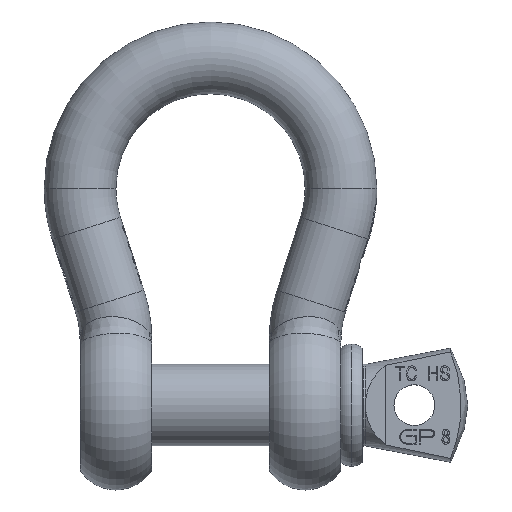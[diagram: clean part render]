
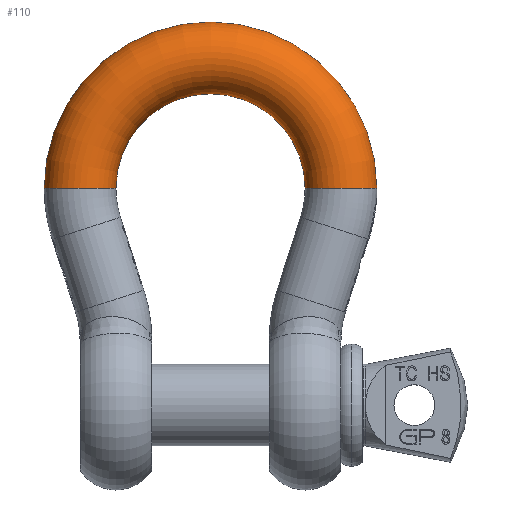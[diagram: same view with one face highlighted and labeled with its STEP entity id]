
A CAD part, top view. The second image highlights one B-rep face of the part: STEP entity #110.
In plain terms, the highlighted toroidal (fillet/blend) face has major radius 40 mm and minor radius 11 mm.
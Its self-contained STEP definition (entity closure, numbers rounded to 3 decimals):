
#110=ADVANCED_FACE('',(#555),#556,.T.);
#555=FACE_OUTER_BOUND('',#1414,.T.);
#556=TOROIDAL_SURFACE('',#1415,40.0,11.0);
#1414=EDGE_LOOP('',(#6988,#6989,#6990,#6991,#6992,#6993));
#1415=AXIS2_PLACEMENT_3D('',#6994,#6995,#6996);
#6988=ORIENTED_EDGE('',*,*,#9798,.T.);
#6989=ORIENTED_EDGE('',*,*,#9987,.T.);
#6990=ORIENTED_EDGE('',*,*,#9988,.T.);
#6991=ORIENTED_EDGE('',*,*,#9799,.T.);
#6992=ORIENTED_EDGE('',*,*,#9989,.T.);
#6993=ORIENTED_EDGE('',*,*,#9990,.T.);
#6994=CARTESIAN_POINT('',(0.0,66.5,0.0));
#6995=DIRECTION('',(0.0,0.0,1.0));
#6996=DIRECTION('',(1.0,0.0,0.0));
#9798=EDGE_CURVE('',#10945,#10910,#10958,.T.);
#9799=EDGE_CURVE('',#10913,#10943,#10959,.T.);
#9987=EDGE_CURVE('',#10910,#11318,#11319,.T.);
#9988=EDGE_CURVE('',#11318,#10913,#11320,.T.);
#9989=EDGE_CURVE('',#10943,#11321,#11322,.T.);
#9990=EDGE_CURVE('',#11321,#10945,#11323,.T.);
#10910=VERTEX_POINT('',#12866);
#10913=VERTEX_POINT('',#12869);
#10943=VERTEX_POINT('',#12919);
#10945=VERTEX_POINT('',#12921);
#10958=CIRCLE('',#12946,51.0);
#10959=CIRCLE('',#12947,29.0);
#11318=VERTEX_POINT('',#14430);
#11319=CIRCLE('',#14431,11.0);
#11320=CIRCLE('',#14432,11.0);
#11321=VERTEX_POINT('',#14433);
#11322=CIRCLE('',#14434,11.0);
#11323=CIRCLE('',#14435,11.0);
#12866=CARTESIAN_POINT('',(-51.0,66.5,0.));
#12869=CARTESIAN_POINT('',(-29.0,66.5,0.));
#12919=CARTESIAN_POINT('',(29.0,66.5,0.));
#12921=CARTESIAN_POINT('',(51.0,66.5,0.));
#12946=AXIS2_PLACEMENT_3D('',#19970,#19971,#19972);
#12947=AXIS2_PLACEMENT_3D('',#19973,#19974,#19975);
#14430=CARTESIAN_POINT('',(-40.0,66.5,11.0));
#14431=AXIS2_PLACEMENT_3D('',#20187,#20188,#20189);
#14432=AXIS2_PLACEMENT_3D('',#20190,#20191,#20192);
#14433=CARTESIAN_POINT('',(40.0,66.5,11.0));
#14434=AXIS2_PLACEMENT_3D('',#20193,#20194,#20195);
#14435=AXIS2_PLACEMENT_3D('',#20196,#20197,#20198);
#19970=CARTESIAN_POINT('',(0.0,66.5,0.));
#19971=DIRECTION('',(0.0,0.0,1.0));
#19972=DIRECTION('',(1.0,0.0,0.0));
#19973=CARTESIAN_POINT('',(0.0,66.5,0.));
#19974=DIRECTION('',(0.0,0.0,-1.0));
#19975=DIRECTION('',(1.0,0.0,0.0));
#20187=CARTESIAN_POINT('',(-40.0,66.5,0.0));
#20188=DIRECTION('',(0.0,1.0,0.0));
#20189=DIRECTION('',(0.0,0.0,1.0));
#20190=CARTESIAN_POINT('',(-40.0,66.5,0.0));
#20191=DIRECTION('',(0.0,1.0,0.0));
#20192=DIRECTION('',(0.0,0.0,1.0));
#20193=CARTESIAN_POINT('',(40.0,66.5,0.0));
#20194=DIRECTION('',(0.0,1.0,0.0));
#20195=DIRECTION('',(0.0,0.0,1.0));
#20196=CARTESIAN_POINT('',(40.0,66.5,0.0));
#20197=DIRECTION('',(0.0,1.0,0.0));
#20198=DIRECTION('',(0.0,0.0,1.0));
